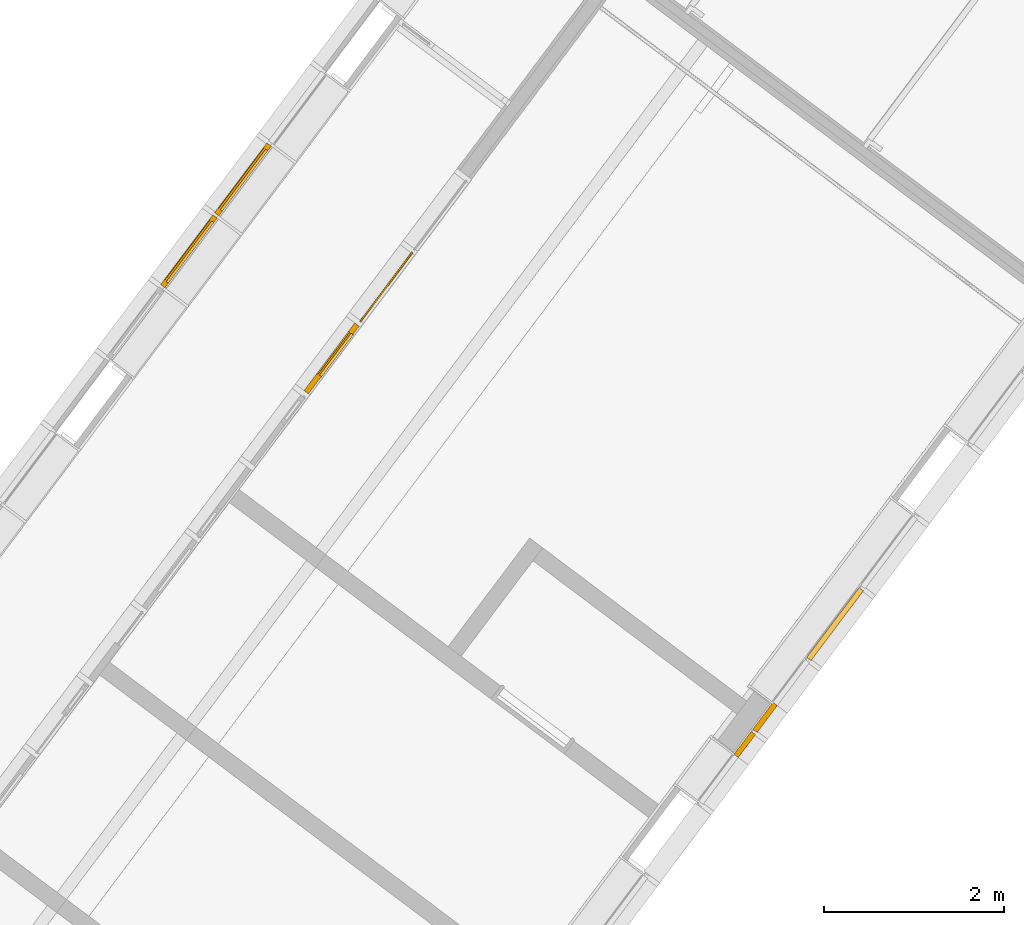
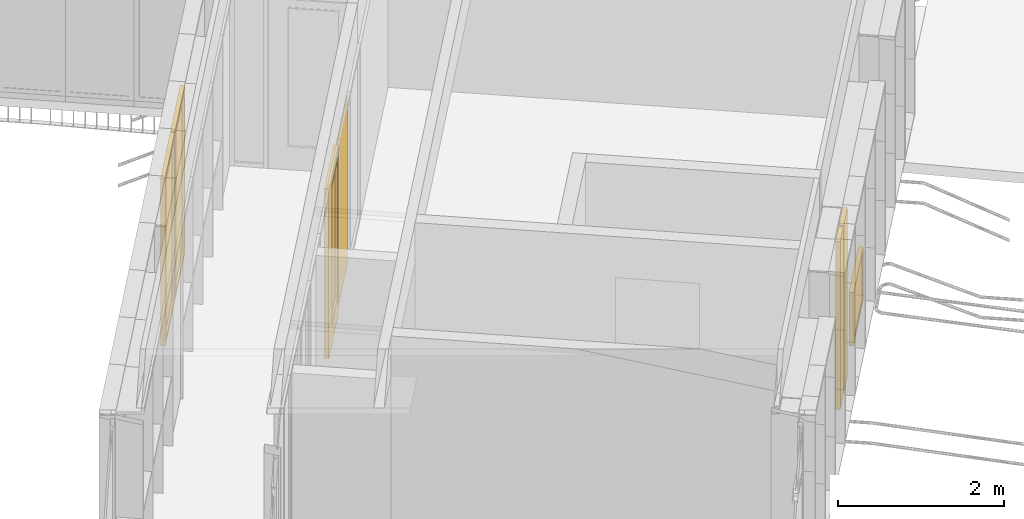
# One storey, part 166 of 243: 4 windows, 3 doors, 3 elements without a shape of their own.
"""IFC2X3 building model written with IfcOpenShell, lengths in metres."""

from ifc_helpers import new_model, entity, si_unit, converted_unit, derived_unit, direction, frame, origin, origin_2d_with_axis, place, context, subcontext, project, spatial, rectangle, extrude, faceted_brep, source, transform, mapped, material, material_list, type_object, type_shapes, element, aggregate, save


model = new_model("IFC2X3")

# Units and contexts
model_context = context("Model", 3, precision=1e-05, world=origin(), true_north=direction((6.123031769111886e-17, 1.0)))
body_context = subcontext(model_context, "Body", "Model", "MODEL_VIEW")
ifc_project = project(units=[si_unit("LENGTHUNIT", "METRE"), si_unit("AREAUNIT", "SQUARE_METRE"), si_unit("VOLUMEUNIT", "CUBIC_METRE"), converted_unit("PLANEANGLEUNIT", "DEGREE", entity("IfcRatioMeasure", 0.017453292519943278), si_unit("PLANEANGLEUNIT", "RADIAN"), dimensions=[0, 0, 0, 0, 0, 0, 0]), si_unit("MASSUNIT", "GRAM", prefix="KILO"), derived_unit("MASSDENSITYUNIT", [(si_unit("MASSUNIT", "GRAM", prefix="KILO"), 1), (si_unit("LENGTHUNIT", "METRE"), -3)]), derived_unit("IONCONCENTRATIONUNIT", [(si_unit("MASSUNIT", "GRAM", prefix="KILO"), 1), (si_unit("LENGTHUNIT", "METRE"), -3)]), derived_unit("MOMENTOFINERTIAUNIT", [(si_unit("LENGTHUNIT", "METRE"), 4)]), si_unit("TIMEUNIT", "SECOND"), si_unit("FREQUENCYUNIT", "HERTZ"), si_unit("THERMODYNAMICTEMPERATUREUNIT", "DEGREE_CELSIUS"), derived_unit("THERMALTRANSMITTANCEUNIT", [(si_unit("MASSUNIT", "GRAM", prefix="KILO"), 1), (si_unit("THERMODYNAMICTEMPERATUREUNIT", "KELVIN"), -1), (si_unit("TIMEUNIT", "SECOND"), -3)]), derived_unit("THERMALCONDUCTANCEUNIT", [(si_unit("MASSUNIT", "GRAM", prefix="KILO"), 1), (si_unit("THERMODYNAMICTEMPERATUREUNIT", "KELVIN"), -1), (si_unit("TIMEUNIT", "SECOND"), -3), (si_unit("LENGTHUNIT", "METRE"), 1)]), derived_unit("VOLUMETRICFLOWRATEUNIT", [(si_unit("LENGTHUNIT", "METRE"), 3), (si_unit("TIMEUNIT", "SECOND"), -1)]), derived_unit("MASSFLOWRATEUNIT", [(si_unit("MASSUNIT", "GRAM", prefix="KILO"), 1), (si_unit("TIMEUNIT", "SECOND"), -1)]), derived_unit("ROTATIONALFREQUENCYUNIT", [(si_unit("TIMEUNIT", "SECOND"), -1)]), si_unit("ELECTRICCURRENTUNIT", "AMPERE"), si_unit("ELECTRICVOLTAGEUNIT", "VOLT"), si_unit("POWERUNIT", "WATT"), si_unit("FORCEUNIT", "NEWTON", prefix="KILO"), si_unit("ILLUMINANCEUNIT", "LUX"), si_unit("LUMINOUSFLUXUNIT", "LUMEN"), si_unit("LUMINOUSINTENSITYUNIT", "CANDELA"), derived_unit("USERDEFINED", [(si_unit("MASSUNIT", "GRAM", prefix="KILO"), -1), (si_unit("LENGTHUNIT", "METRE"), -2), (si_unit("TIMEUNIT", "SECOND"), 3), (si_unit("LUMINOUSFLUXUNIT", "LUMEN"), 1)]), derived_unit("USERDEFINED", [(si_unit("MASSUNIT", "GRAM", prefix="KILO"), 1), (si_unit("TIMEUNIT", "SECOND"), -3), (si_unit("LENGTHUNIT", "METRE"), 3), (si_unit("ELECTRICCURRENTUNIT", "AMPERE"), -2)]), derived_unit("SOUNDPOWERUNIT", [(si_unit("MASSUNIT", "GRAM", prefix="KILO"), 1), (si_unit("TIMEUNIT", "SECOND"), -3), (si_unit("LENGTHUNIT", "METRE"), 2)]), derived_unit("SOUNDPRESSUREUNIT", [(si_unit("MASSUNIT", "GRAM", prefix="KILO"), 1), (si_unit("LENGTHUNIT", "METRE"), -1), (si_unit("TIMEUNIT", "SECOND"), -2)]), derived_unit("LINEARVELOCITYUNIT", [(si_unit("LENGTHUNIT", "METRE"), 1), (si_unit("TIMEUNIT", "SECOND"), -1)]), si_unit("PRESSUREUNIT", "PASCAL"), derived_unit("USERDEFINED", [(si_unit("MASSUNIT", "GRAM", prefix="KILO"), 1), (si_unit("LENGTHUNIT", "METRE"), -2), (si_unit("TIMEUNIT", "SECOND"), -2)]), derived_unit("LINEARFORCEUNIT", [(si_unit("MASSUNIT", "GRAM", prefix="KILO"), 1), (si_unit("TIMEUNIT", "SECOND"), -2)]), derived_unit("PLANARFORCEUNIT", [(si_unit("MASSUNIT", "GRAM", prefix="KILO"), 1), (si_unit("LENGTHUNIT", "METRE"), -1), (si_unit("TIMEUNIT", "SECOND"), -2)]), derived_unit("SPECIFICHEATCAPACITYUNIT", [(si_unit("THERMODYNAMICTEMPERATUREUNIT", "KELVIN"), -1), (si_unit("LENGTHUNIT", "METRE"), 2), (si_unit("TIMEUNIT", "SECOND"), -2)]), derived_unit("HEATINGVALUEUNIT", [(si_unit("LENGTHUNIT", "METRE"), 2), (si_unit("TIMEUNIT", "SECOND"), -2)]), derived_unit("VAPORPERMEABILITYUNIT", [(si_unit("LENGTHUNIT", "METRE"), -1), (si_unit("TIMEUNIT", "SECOND"), 1)]), derived_unit("DYNAMICVISCOSITYUNIT", [(si_unit("MASSUNIT", "GRAM", prefix="KILO"), 1), (si_unit("TIMEUNIT", "SECOND"), -1), (si_unit("LENGTHUNIT", "METRE"), -1)]), derived_unit("THERMALEXPANSIONCOEFFICIENTUNIT", [(si_unit("THERMODYNAMICTEMPERATUREUNIT", "KELVIN"), -1)]), derived_unit("MODULUSOFELASTICITYUNIT", [(si_unit("MASSUNIT", "GRAM", prefix="KILO"), 1), (si_unit("LENGTHUNIT", "METRE"), -1), (si_unit("TIMEUNIT", "SECOND"), -2)]), derived_unit("ISOTHERMALMOISTURECAPACITYUNIT", [(si_unit("LENGTHUNIT", "METRE"), 3), (si_unit("MASSUNIT", "GRAM", prefix="KILO"), -1)]), derived_unit("MOISTUREDIFFUSIVITYUNIT", [(si_unit("TIMEUNIT", "SECOND"), -1), (si_unit("LENGTHUNIT", "METRE"), 2)])], contexts=[model_context])

# Site, building, storey
site_placement = place(None, frame((0.0, 0.0, 235.0), z_axis=(0.0, 0.0, 1.0), x_axis=(-0.7996477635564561, 0.6004693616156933, 0.0)))
site = spatial("IfcSite", under=ifc_project, at=site_placement, Name="Default", CompositionType="ELEMENT")
building_placement = place(site_placement, origin())
building = spatial("IfcBuilding", under=site, at=building_placement, CompositionType="ELEMENT")
storey_placement = place(building_placement, origin())
storey = spatial("IfcBuildingStorey", under=building, at=storey_placement, Name="P0- Escola", CompositionType="ELEMENT", Elevation=0.0)

# Curtain wall, window, door
curtain_wall_type_1 = type_object("IfcCurtainWallType", Name="Muro cortina:MC- INT- a2", PredefinedType="NOTDEFINED")
curtain_wall_1_placement = place(storey_placement, origin())
curtain_wall_1 = element("IfcCurtainWall", 1, at=curtain_wall_1_placement, inside=storey, type_object=curtain_wall_type_1, Name="Muro cortina:MC- INT- a2", ObjectType="Muro cortina:MC- INT- a2")
ifc_material_1 = material(Name="_Vidre")
window_style_1 = type_object("IfcWindowStyle", Name="MC- Fusta- vidre fix:MC- Fusta- vidre fix", ConstructionType="NOTDEFINED", OperationType="NOTDEFINED", ParameterTakesPrecedence=False, Sizeable=False, material=ifc_material_1)
shared_shape_1 = source(origin(), body_context, "Body", "SweptSolid", [
    extrude(rectangle(XDim=0.015999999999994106, YDim=0.9699999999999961, at=origin_2d_with_axis()), frame((0.0, 0.0, 0.0), z_axis=(0.0, 0.0, 1.0), x_axis=(0.0, -1.0, 0.0)), (0.0, 0.0, 1.0), 2.475),
])
type_shapes(window_style_1, [shared_shape_1])
window_1_placement = place(curtain_wall_1_placement, frame((34.62014768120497, -32.91519175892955, 0.045000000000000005), z_axis=(0.0, 0.0, 1.0), x_axis=(0.0, -1.0, 0.0)))
window_1 = element("IfcWindow", 2, at=window_1_placement, type_object=window_style_1, material=ifc_material_1, Name="MC- Fusta- vidre fix:MC- Fusta- vidre fix", ObjectType="MC- Fusta- vidre fix:MC- Fusta- vidre fix", OverallHeight=2.475, OverallWidth=0.9699999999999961, context=body_context, shape_type="MappedRepresentation", body=[
    mapped(shared_shape_1, transform((0.0, 0.0, 0.0), scale=1.0)),
])
ifc_material_2 = material(Name="_Fusta massisa- T1")
ifc_material_list_1 = material_list([ifc_material_2, ifc_material_1])
door_style_1 = type_object("IfcDoorStyle", Name="MC- Fusta- conjunt porta:MC- Fusta- conjunt Porta aules", ConstructionType="NOTDEFINED", OperationType="NOTDEFINED", ParameterTakesPrecedence=False, Sizeable=False, material=ifc_material_list_1)
shared_shape_2 = source(origin(), body_context, "Body", "Brep", [
    faceted_brep([(-0.24500000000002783, -0.024999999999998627, 2.3799999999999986), (-0.24500000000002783, 0.0050000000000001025, 2.3799999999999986), (-0.24500000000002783, 0.0050000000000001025, 0.3299999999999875), (-0.24500000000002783, -0.024999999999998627, 0.3299999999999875), (0.3700000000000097, 0.0050000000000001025, 0.3299999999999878), (0.3700000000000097, -0.024999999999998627, 0.3299999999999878), (0.37000000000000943, 0.0050000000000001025, 2.3799999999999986), (0.37000000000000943, -0.024999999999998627, 2.3799999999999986), (-0.23000000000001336, 0.0050000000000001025, 2.3650000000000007), (-0.23000000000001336, 0.0050000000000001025, 0.34499999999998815), (0.35499999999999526, 0.0050000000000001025, 0.3449999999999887), (0.35499999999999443, 0.0050000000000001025, 2.3650000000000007), (-0.23000000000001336, -0.024999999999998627, 2.3650000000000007), (0.35499999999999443, -0.024999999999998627, 2.3650000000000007), (0.35499999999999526, -0.024999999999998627, 0.3449999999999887), (-0.23000000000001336, -0.024999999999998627, 0.34499999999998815)], [[[0, 1, 2, 3]], [[3, 2, 4, 5]], [[5, 4, 6, 7]], [[8, 9, 10, 11], [1, 6, 4, 2]], [[12, 13, 14, 15], [0, 3, 5, 7]], [[15, 9, 8, 12]], [[14, 10, 9, 15]], [[13, 11, 10, 14]], [[7, 6, 1, 0]], [[12, 8, 11, 13]]], outer=[[True], [True], [True], [False, True], [False, True], [True], [True], [True], [True], [True]]),
    faceted_brep([(-0.43999999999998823, 0.03999999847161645, 0.0), (0.43999999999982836, 0.039999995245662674, 0.0), (0.43999999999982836, 0.009999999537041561, 0.0), (0.45499999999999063, 0.009999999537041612, 0.0), (0.45499999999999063, -0.019999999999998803, 0.0), (-0.4550000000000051, -0.01999999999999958, 0.0), (-0.4550000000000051, 0.0099999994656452, 0.0), (-0.43999999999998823, 0.0099999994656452, 0.0), (-0.4550000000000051, -0.01999999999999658, 2.4899999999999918), (0.45499999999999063, -0.01999999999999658, 2.4899999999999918), (-0.24500000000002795, -0.019999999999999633, 0.3300000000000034), (-0.24500000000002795, -0.01999999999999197, 2.3799999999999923), (0.37000000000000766, -0.019999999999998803, 2.3799999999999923), (0.37000000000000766, -0.019999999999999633, 0.3300000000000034), (-0.45500000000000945, 0.0099999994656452, 2.4899999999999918), (0.45499999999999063, 0.0099999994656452, 2.4899999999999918), (-0.43999999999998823, 0.03999999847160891, 2.4749999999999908), (-0.43999999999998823, 0.0099999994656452, 2.4749999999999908), (0.43999999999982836, 0.0099999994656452, 2.4749999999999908), (0.43999999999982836, 0.039999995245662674, 2.4749999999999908), (0.3549999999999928, 0.03999999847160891, 0.3450000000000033), (0.3549999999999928, 0.03999999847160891, 2.364999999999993), (-0.2300000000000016, 0.039999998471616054, 2.364999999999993), (-0.2300000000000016, 0.03999999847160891, 0.3450000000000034), (-0.2300000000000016, 0.025000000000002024, 0.3450000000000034), (0.3549999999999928, 0.025000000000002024, 0.3450000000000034), (-0.2300000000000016, 0.025000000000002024, 2.364999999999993), (0.3549999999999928, 0.024999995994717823, 2.364999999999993), (0.37000000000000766, 0.025000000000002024, 0.3300000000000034), (0.37000000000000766, 0.025000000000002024, 2.3799999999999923), (-0.24500000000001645, 0.025000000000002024, 2.3799999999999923), (-0.24500000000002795, 0.025000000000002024, 0.3300000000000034), (-0.24500000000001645, 0.024999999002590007, 0.3300000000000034), (-0.24500000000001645, 0.024999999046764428, 2.3799999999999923), (0.3549999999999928, 0.03999999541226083, 2.364999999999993), (-0.2300000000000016, 0.024999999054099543, 2.364999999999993), (0.37000000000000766, 0.02499999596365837, 2.3799999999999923)], [[[0, 1, 2, 3, 4, 5, 6, 7]], [[8, 5, 4, 9], [10, 11, 12, 13]], [[8, 14, 6, 5]], [[15, 9, 4, 3]], [[16, 0, 7, 17]], [[14, 15, 3, 2, 18, 17, 7, 6]], [[18, 2, 1, 19]], [[20, 21, 22, 23], [16, 19, 1, 0]], [[23, 24, 25, 20]], [[23, 22, 26, 24]], [[25, 27, 21, 20]], [[24, 26, 27, 25], [28, 29, 30, 31]], [[13, 28, 32, 10]], [[31, 33, 11, 10]], [[13, 12, 29, 28]], [[9, 15, 14, 8]], [[17, 18, 19, 16]], [[34, 27, 35, 22]], [[11, 30, 36, 12]]], outer=[[True], [True, False], [True], [True], [True], [True], [True], [False, True], [True], [True], [True], [False, True], [True], [True], [True], [True], [True], [True], [True]]),
    faceted_brep([(0.37000000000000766, 0.024999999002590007, 0.3300000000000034), (0.37000000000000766, 0.0050000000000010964, 0.3300000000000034), (-0.2450000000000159, 0.0050000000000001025, 0.3300000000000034), (-0.2450000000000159, 0.024999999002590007, 0.3300000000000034), (0.37000000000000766, 0.024999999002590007, 2.380000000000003), (-0.2450000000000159, 0.024999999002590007, 2.380000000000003), (-0.2450000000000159, 0.0050000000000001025, 2.380000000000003), (0.37000000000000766, 0.0050000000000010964, 2.380000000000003)], [[[0, 1, 2, 3]], [[4, 0, 3, 5]], [[5, 3, 2, 6]], [[6, 2, 1, 7]], [[7, 1, 0, 4]], [[4, 5, 6, 7]]]),
    faceted_brep([(-0.46500000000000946, -0.01999999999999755, 0.0), (-0.46500000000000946, -0.015999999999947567, 0.0), (-0.469999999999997, -0.015999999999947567, 0.0), (-0.469999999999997, 0.03600000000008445, 0.0), (-0.46500000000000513, 0.03600000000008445, 0.0), (-0.46500000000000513, 0.0400000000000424, 0.0), (-0.44000000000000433, 0.0400000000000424, 0.0), (-0.44000000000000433, 0.010000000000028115, 0.0), (-0.4550000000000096, 0.010000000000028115, 0.0), (-0.4550000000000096, -0.01999999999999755, 0.0), (-0.45500000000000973, -0.01999999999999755, 2.4900000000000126), (0.45500000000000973, -0.01999999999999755, 2.4900000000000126), (0.45500000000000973, -0.01999999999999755, 0.0), (0.46500000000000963, -0.01999999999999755, 0.0), (0.46500000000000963, -0.01999999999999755, 2.5000000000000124), (-0.4650000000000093, -0.01999999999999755, 2.500000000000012), (-0.4550000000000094, 0.010000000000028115, 2.4900000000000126), (-0.4400000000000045, 0.010000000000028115, 2.4750000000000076), (0.4400000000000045, 0.010000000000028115, 2.4750000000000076), (0.4400000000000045, 0.010000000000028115, 0.0), (0.45500000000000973, 0.010000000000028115, 0.0), (0.45500000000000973, 0.010000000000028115, 2.4900000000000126), (-0.4400000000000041, 0.0400000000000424, 2.4750000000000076), (-0.4650000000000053, 0.0400000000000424, 2.5000000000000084), (0.4650000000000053, 0.0400000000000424, 2.5000000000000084), (0.4650000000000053, 0.0400000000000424, 0.0), (0.4400000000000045, 0.0400000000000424, 0.0), (0.4400000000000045, 0.0400000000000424, 2.4750000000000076), (-0.46500000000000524, 0.03600000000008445, 2.5000000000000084), (-0.4699999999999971, 0.03600000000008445, 2.5050000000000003), (0.4699999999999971, 0.03600000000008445, 2.5050000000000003), (0.4699999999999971, 0.03600000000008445, 0.0), (0.4650000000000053, 0.03600000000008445, 0.0), (0.4650000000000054, 0.03600000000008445, 2.5000000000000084), (-0.46999999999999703, -0.015999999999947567, 2.5050000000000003), (-0.46500000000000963, -0.015999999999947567, 2.5000000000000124), (0.46500000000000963, -0.015999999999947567, 2.5000000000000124), (0.46500000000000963, -0.015999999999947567, 0.0), (0.4699999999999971, -0.015999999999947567, 0.0), (0.46999999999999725, -0.015999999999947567, 2.5050000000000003)], [[[0, 1, 2, 3, 4, 5, 6, 7, 8, 9]], [[9, 10, 11, 12, 13, 14, 15, 0]], [[8, 16, 10, 9]], [[7, 17, 18, 19, 20, 21, 16, 8]], [[6, 22, 17, 7]], [[5, 23, 24, 25, 26, 27, 22, 6]], [[4, 28, 23, 5]], [[3, 29, 30, 31, 32, 33, 28, 4]], [[2, 34, 29, 3]], [[1, 35, 36, 37, 38, 39, 34, 2]], [[0, 15, 35, 1]], [[14, 13, 37, 36]], [[13, 12, 20, 19, 26, 25, 32, 31, 38, 37]], [[21, 20, 12, 11]], [[27, 26, 19, 18]], [[33, 32, 25, 24]], [[39, 38, 31, 30]], [[16, 21, 11, 10]], [[22, 27, 18, 17]], [[28, 33, 24, 23]], [[34, 39, 30, 29]], [[15, 14, 36, 35]]]),
])
type_shapes(door_style_1, [shared_shape_2])
door_1_placement = place(curtain_wall_1_placement, frame((34.620147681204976, -31.915191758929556, 0.0), z_axis=(0.0, 0.0, 1.0), x_axis=(0.0, -1.0, 0.0)))
door_1 = element("IfcDoor", 3, at=door_1_placement, type_object=door_style_1, material=ifc_material_list_1, Name="MC- Fusta- conjunt porta:MC- Fusta- conjunt Porta aules", ObjectType="MC- Fusta- conjunt porta:MC- Fusta- conjunt Porta aules", OverallHeight=2.5050000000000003, OverallWidth=0.9399999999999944, context=body_context, shape_type="MappedRepresentation", body=[
    mapped(shared_shape_2, transform((0.0, 0.0, 0.0), scale=1.0)),
])
aggregate(curtain_wall_1, [window_1, door_1])

# Curtain wall, window, doors
curtain_wall_type_2 = type_object("IfcCurtainWallType", Name="Muro cortina:MC- EXT- MC2", PredefinedType="NOTDEFINED")
curtain_wall_2_placement = place(storey_placement, origin())
curtain_wall_2 = element("IfcCurtainWall", 4, at=curtain_wall_2_placement, inside=storey, type_object=curtain_wall_type_2, Name="Muro cortina:MC- EXT- MC2", ObjectType="Muro cortina:MC- EXT- MC2")
ifc_material_3 = material(Name="_Alumini- T1- Perfil")
ifc_material_list_2 = material_list([ifc_material_1, ifc_material_3])
window_style_2 = type_object("IfcWindowStyle", Name="MC- Alu- Conjunt vidre fix- 62x60 cm:MC- Alu- Conjunt vidre fix- 62x60 cm", ConstructionType="NOTDEFINED", OperationType="NOTDEFINED", ParameterTakesPrecedence=False, Sizeable=False, material=ifc_material_list_2)
shared_shape_3 = source(origin(), body_context, "Body", "Brep", [
    faceted_brep([(0.4361932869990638, -0.007600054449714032, 0.048806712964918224), (0.4361932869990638, -0.03160022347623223, 0.048806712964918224), (-0.4361932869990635, -0.03160022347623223, 0.048806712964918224), (-0.4361932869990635, -0.007600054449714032, 0.048806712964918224), (0.4361932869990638, -0.007600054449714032, 0.7387000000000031), (-0.4361932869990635, -0.007600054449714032, 0.7387000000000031), (-0.4361932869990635, -0.03160022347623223, 0.7387000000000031), (0.4361932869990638, -0.03160022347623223, 0.7387000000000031)], [[[0, 1, 2, 3]], [[4, 0, 3, 5]], [[5, 3, 2, 6]], [[6, 2, 1, 7]], [[7, 1, 0, 4]], [[4, 5, 6, 7]]]),
    faceted_brep([(0.48499999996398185, -0.05999999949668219, 0.7877000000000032), (0.48499999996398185, -0.05999999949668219, 0.0), (0.48499999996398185, 0.0, 0.0), (0.48499999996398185, 0.0, 0.787700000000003), (-0.48499999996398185, 0.0, 0.7877000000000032), (-0.48499999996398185, 0.0, 0.0), (0.4221931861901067, 0.0, 0.7248931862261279), (-0.42219318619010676, 0.0, 0.724893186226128), (-0.4221931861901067, 0.0, 0.0628068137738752), (0.4221931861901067, 0.0, 0.06280681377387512), (-0.48499999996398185, -0.05999999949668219, 0.0), (-0.48499999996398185, -0.05999999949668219, 0.7877000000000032), (-0.42219603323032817, -0.05999999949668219, 0.7248960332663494), (0.42219603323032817, -0.05999999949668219, 0.7248960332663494), (0.42219603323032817, -0.05999999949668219, 0.0628039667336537), (-0.42219603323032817, -0.05999999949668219, 0.0628039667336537), (0.4221960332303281, -0.03160022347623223, 0.7248960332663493), (0.42219603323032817, -0.03160022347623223, 0.0628039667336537), (-0.42219603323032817, -0.03160022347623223, 0.06280396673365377), (-0.42219603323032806, -0.03160022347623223, 0.7248960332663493), (-0.43619328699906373, -0.03160022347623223, 0.738893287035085), (0.43619328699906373, -0.03160022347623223, 0.738893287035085), (0.43619328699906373, -0.03160022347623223, 0.048806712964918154), (-0.43619328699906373, -0.03160022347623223, 0.04880671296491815), (0.43619328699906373, -0.007600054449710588, 0.738893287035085), (0.43619328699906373, -0.007600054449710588, 0.04880671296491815), (-0.43619328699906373, -0.007600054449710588, 0.048806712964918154), (-0.43619328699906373, -0.007600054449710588, 0.738893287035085), (-0.42219318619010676, -0.007600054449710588, 0.724893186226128), (0.42219318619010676, -0.007600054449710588, 0.724893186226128), (0.42219318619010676, -0.007600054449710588, 0.06280681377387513), (-0.42219318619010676, -0.007600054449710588, 0.06280681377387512)], [[[0, 1, 2, 3]], [[4, 3, 2, 5], [6, 7, 8, 9]], [[1, 10, 5, 2]], [[0, 11, 10, 1], [12, 13, 14, 15]], [[16, 17, 14, 13]], [[17, 18, 15, 14]], [[16, 19, 18, 17], [20, 21, 22, 23]], [[24, 25, 22, 21]], [[25, 26, 23, 22]], [[24, 27, 26, 25], [28, 29, 30, 31]], [[6, 9, 30, 29]], [[9, 8, 31, 30]], [[10, 11, 4, 5]], [[18, 19, 12, 15]], [[26, 27, 20, 23]], [[8, 7, 28, 31]], [[11, 0, 3, 4]], [[19, 16, 13, 12]], [[27, 24, 21, 20]], [[7, 6, 29, 28]]], outer=[[True], [True, False], [True], [True, False], [True], [True], [False, True], [True], [True], [True, False], [True], [True], [True], [True], [True], [True], [True], [True], [True], [True]]),
])
type_shapes(window_style_2, [shared_shape_3])
window_2_placement = place(curtain_wall_2_placement, frame((28.34514768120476, -32.915191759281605, 0.03229999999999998), z_axis=(0.0, 0.0, 1.0), x_axis=(0.0, 1.0, 0.0)))
window_2 = element("IfcWindow", 5, at=window_2_placement, type_object=window_style_2, material=ifc_material_list_2, Name="MC- Alu- Conjunt vidre fix- 62x60 cm:MC- Alu- Conjunt vidre fix- 62x60 cm", ObjectType="MC- Alu- Conjunt vidre fix- 62x60 cm:MC- Alu- Conjunt vidre fix- 62x60 cm", OverallHeight=0.7877000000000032, OverallWidth=0.9699999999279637, context=body_context, shape_type="MappedRepresentation", body=[
    mapped(shared_shape_3, transform((0.0, 0.0, 0.0), scale=1.0)),
])
ifc_material_4 = material(Name="_Aillament")
ifc_material_list_3 = material_list([ifc_material_3, ifc_material_4])
door_style_2 = type_object("IfcDoorStyle", Name="MC- Alu- panell especific xapa:MC- Alu- panell especific xapa", ConstructionType="NOTDEFINED", OperationType="NOTDEFINED", ParameterTakesPrecedence=False, Sizeable=False, material=ifc_material_list_3)
shared_shape_4 = source(origin(), body_context, "Body", "SweptSolid", [
    extrude(rectangle(XDim=0.005999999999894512, YDim=0.3183333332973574, at=origin_2d_with_axis()), frame((0.0, -0.057000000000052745, 0.0), z_axis=(0.0, 0.0, 1.0), x_axis=(0.0, -1.0, 0.0)), (0.0, 0.0, 1.0), 2.471449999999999),
    extrude(rectangle(XDim=0.31833333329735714, YDim=0.048000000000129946, at=origin_2d_with_axis()), frame((0.0, -0.030000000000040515, 0.0)), (0.0, 0.0, 1.0), 2.471449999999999),
    extrude(rectangle(XDim=0.005999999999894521, YDim=0.3183333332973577, at=origin_2d_with_axis()), frame((0.0, -0.003000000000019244, 0.0), z_axis=(0.0, 0.0, 1.0), x_axis=(0.0, -1.0, 0.0)), (0.0, 0.0, 1.0), 2.471449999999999),
])
type_shapes(door_style_2, [shared_shape_4])
door_2_placement = place(curtain_wall_2_placement, frame((28.345147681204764, -31.241025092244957, 0.03229999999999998), z_axis=(0.0, 0.0, 1.0), x_axis=(0.0, 1.0, 0.0)))
door_2 = element("IfcDoor", 6, at=door_2_placement, type_object=door_style_2, material=ifc_material_list_3, Name="MC- Alu- panell especific xapa:MC- Alu- panell especific xapa", ObjectType="MC- Alu- panell especific xapa:MC- Alu- panell especific xapa", OverallHeight=2.471449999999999, OverallWidth=0.3183333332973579, context=body_context, shape_type="MappedRepresentation", body=[
    mapped(shared_shape_4, transform((0.0, 0.0, 0.0), scale=1.0)),
])
door_style_3 = type_object("IfcDoorStyle", Name="MC- Alu- panell especific xapa:MC- Alu- panell especific xapa", ConstructionType="NOTDEFINED", OperationType="NOTDEFINED", ParameterTakesPrecedence=False, Sizeable=False, material=ifc_material_list_3)
shared_shape_5 = source(origin(), body_context, "Body", "SweptSolid", [
    extrude(rectangle(XDim=0.005999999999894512, YDim=0.3734999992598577, at=origin_2d_with_axis()), frame((0.0, -0.057000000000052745, 0.0), z_axis=(0.0, 0.0, 1.0), x_axis=(0.0, -1.0, 0.0)), (0.0, 0.0, 1.0), 2.471449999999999),
    extrude(rectangle(XDim=0.37349999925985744, YDim=0.048000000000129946, at=origin_2d_with_axis()), frame((0.0, -0.030000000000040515, 0.0)), (0.0, 0.0, 1.0), 2.471449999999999),
    extrude(rectangle(XDim=0.005999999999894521, YDim=0.373499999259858, at=origin_2d_with_axis()), frame((0.0, -0.003000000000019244, 0.0), z_axis=(0.0, 0.0, 1.0), x_axis=(0.0, -1.0, 0.0)), (0.0, 0.0, 1.0), 2.471449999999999),
])
type_shapes(door_style_3, [shared_shape_5])
door_3_placement = place(curtain_wall_2_placement, frame((28.345147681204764, -31.61694175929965, 0.03229999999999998), z_axis=(0.0, 0.0, 1.0), x_axis=(0.0, 1.0, 0.0)))
door_3 = element("IfcDoor", 7, at=door_3_placement, type_object=door_style_3, material=ifc_material_list_3, Name="MC- Alu- panell especific xapa:MC- Alu- panell especific xapa", ObjectType="MC- Alu- panell especific xapa:MC- Alu- panell especific xapa", OverallHeight=2.471449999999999, OverallWidth=0.37349999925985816, context=body_context, shape_type="MappedRepresentation", body=[
    mapped(shared_shape_5, transform((0.0, 0.0, 0.0), scale=1.0)),
])
aggregate(curtain_wall_2, [door_2, door_3, window_2])

# Curtain wall, windows
curtain_wall_type_3 = type_object("IfcCurtainWallType", Name="Muro cortina:MC- EXT- MC5", PredefinedType="NOTDEFINED")
curtain_wall_3_placement = place(storey_placement, origin())
curtain_wall_3 = element("IfcCurtainWall", 8, at=curtain_wall_3_placement, inside=storey, type_object=curtain_wall_type_3, Name="Muro cortina:MC- EXT- MC5", ObjectType="Muro cortina:MC- EXT- MC5")
window_style_3 = type_object("IfcWindowStyle", Name="MC- Alu- Conjunt vidre fix- 62x60 cm:MC- Alu- Conjunt vidre fix- 62x60 cm", ConstructionType="NOTDEFINED", OperationType="NOTDEFINED", ParameterTakesPrecedence=False, Sizeable=False, material=ifc_material_list_2)
shared_shape_6 = source(origin(), body_context, "Body", "Brep", [
    faceted_brep([(-0.43619328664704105, -0.007600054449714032, 0.048806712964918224), (0.43619328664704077, -0.007600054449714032, 0.048806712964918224), (0.43619328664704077, -0.03160022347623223, 0.048806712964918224), (-0.43619328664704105, -0.03160022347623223, 0.048806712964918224), (-0.43619328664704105, -0.007600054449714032, 2.422449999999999), (0.43619328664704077, -0.007600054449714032, 2.422449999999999), (0.43619328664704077, -0.03160022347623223, 2.422449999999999), (-0.43619328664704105, -0.03160022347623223, 2.422449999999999)], [[[0, 1, 2, 3]], [[4, 5, 1, 0]], [[5, 6, 2, 1]], [[6, 7, 3, 2]], [[7, 4, 0, 3]], [[4, 7, 6, 5]]]),
    faceted_brep([(-0.4849999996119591, -0.05999999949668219, 2.471449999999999), (-0.4849999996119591, 0.0, 2.471449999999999), (-0.4849999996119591, 0.0, 0.0), (-0.48499999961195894, -0.05999999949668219, 0.0), (-0.4221931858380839, 0.0, 2.408643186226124), (-0.4221931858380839, 0.0, 0.06280681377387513), (0.42219318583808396, 0.0, 0.06280681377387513), (0.422193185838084, 0.0, 2.408643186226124), (0.4849999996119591, 0.0, 2.471449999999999), (0.4849999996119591, 0.0, 0.0), (0.48499999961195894, -0.05999999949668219, 0.0), (0.4849999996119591, -0.05999999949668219, 2.471449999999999), (0.42219603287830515, -0.05999999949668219, 2.408646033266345), (0.42219603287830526, -0.05999999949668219, 0.06280396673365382), (-0.42219603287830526, -0.05999999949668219, 0.06280396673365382), (-0.42219603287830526, -0.05999999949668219, 2.4086460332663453), (-0.42219603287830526, -0.03160022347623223, 2.4086460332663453), (-0.4221960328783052, -0.03160022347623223, 0.06280396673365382), (0.4221960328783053, -0.03160022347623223, 0.06280396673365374), (0.42219603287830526, -0.03160022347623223, 2.4086460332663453), (0.43619328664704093, -0.03160022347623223, 2.422643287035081), (0.43619328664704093, -0.03160022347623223, 0.048806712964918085), (-0.4361932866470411, -0.03160022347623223, 0.04880671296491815), (-0.43619328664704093, -0.03160022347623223, 2.422643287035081), (-0.43619328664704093, -0.007600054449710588, 2.422643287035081), (-0.4361932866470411, -0.007600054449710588, 0.04880671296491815), (0.43619328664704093, -0.007600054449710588, 0.048806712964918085), (0.43619328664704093, -0.007600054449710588, 2.422643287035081), (0.42219318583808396, -0.007600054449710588, 2.408643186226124), (0.42219318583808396, -0.007600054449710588, 0.06280681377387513), (-0.42219318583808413, -0.007600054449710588, 0.06280681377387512), (-0.4221931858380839, -0.007600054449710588, 2.408643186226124)], [[[0, 1, 2, 3]], [[4, 5, 6, 7], [8, 9, 2, 1]], [[3, 2, 9, 10]], [[0, 3, 10, 11], [12, 13, 14, 15]], [[16, 15, 14, 17]], [[17, 14, 13, 18]], [[16, 17, 18, 19], [20, 21, 22, 23]], [[24, 23, 22, 25]], [[25, 22, 21, 26]], [[24, 25, 26, 27], [28, 29, 30, 31]], [[4, 31, 30, 5]], [[5, 30, 29, 6]], [[10, 9, 8, 11]], [[18, 13, 12, 19]], [[26, 21, 20, 27]], [[6, 29, 28, 7]], [[11, 8, 1, 0]], [[19, 12, 15, 16]], [[27, 20, 23, 24]], [[7, 28, 31, 4]]], outer=[[True], [False, True], [True], [True, False], [True], [True], [False, True], [True], [True], [True, False], [True], [True], [True], [True], [True], [True], [True], [True], [True], [True]]),
])
type_shapes(window_style_3, [shared_shape_6])
window_3_placement = place(curtain_wall_3_placement, frame((36.645147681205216, -31.915191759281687, 0.03229999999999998), z_axis=(0.0, 0.0, 1.0), x_axis=(0.0, -1.0, 0.0)))
window_3 = element("IfcWindow", 9, at=window_3_placement, type_object=window_style_3, material=ifc_material_list_2, Name="MC- Alu- Conjunt vidre fix- 62x60 cm:MC- Alu- Conjunt vidre fix- 62x60 cm", ObjectType="MC- Alu- Conjunt vidre fix- 62x60 cm:MC- Alu- Conjunt vidre fix- 62x60 cm", OverallHeight=2.471449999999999, OverallWidth=0.9699999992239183, context=body_context, shape_type="MappedRepresentation", body=[
    mapped(shared_shape_6, transform((0.0, 0.0, 0.0), scale=1.0)),
])
window_4_placement = place(curtain_wall_3_placement, frame((36.64514768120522, -32.91519175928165, 0.03229999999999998), z_axis=(0.0, 0.0, 1.0), x_axis=(0.0, -1.0, 0.0)))
window_4 = element("IfcWindow", 10, at=window_4_placement, type_object=window_style_3, material=ifc_material_list_2, Name="MC- Alu- Conjunt vidre fix- 62x60 cm:MC- Alu- Conjunt vidre fix- 62x60 cm", ObjectType="MC- Alu- Conjunt vidre fix- 62x60 cm:MC- Alu- Conjunt vidre fix- 62x60 cm", OverallHeight=2.471449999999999, OverallWidth=0.9699999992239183, context=body_context, shape_type="MappedRepresentation", body=[
    mapped(shared_shape_6, transform((0.0, 0.0, 0.0), scale=1.0)),
])
aggregate(curtain_wall_3, [window_3, window_4])

save(model, "model.ifc")
